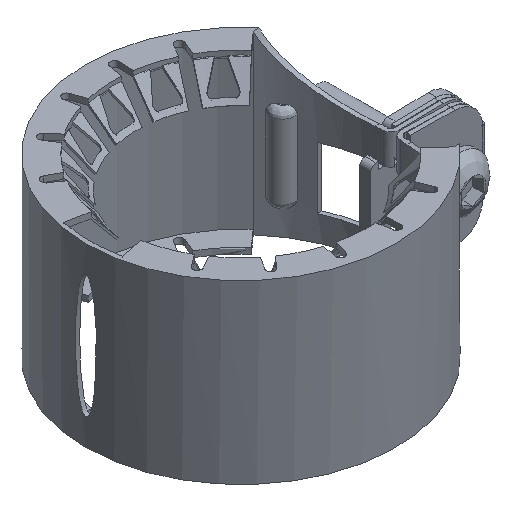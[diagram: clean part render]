
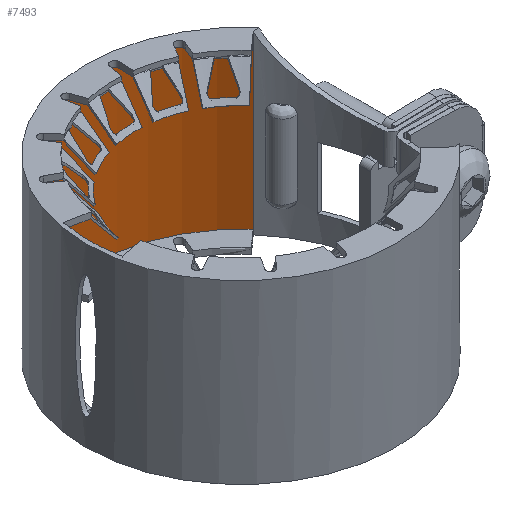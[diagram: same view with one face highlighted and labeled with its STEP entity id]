
A CAD part, isometric view. The second image highlights one B-rep face of the part: STEP entity #7493.
In plain terms, the highlighted cylindrical face has radius 27.9 mm (diameter 55.8 mm), a partial arc.
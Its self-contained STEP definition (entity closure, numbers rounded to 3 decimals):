
#983=LINE('',#13855,#1563);
#984=LINE('',#13856,#1564);
#1563=VECTOR('',#10043,30.8);
#1564=VECTOR('',#10044,30.8);
#1636=CIRCLE('',#7627,27.9);
#1858=CIRCLE('',#8130,27.9);
#1991=CYLINDRICAL_SURFACE('',#8159,27.9);
#2335=FACE_OUTER_BOUND('',#2730,.T.);
#2730=EDGE_LOOP('',(#6639,#6640,#6641,#6642));
#2969=VERTEX_POINT('',#11118);
#2970=VERTEX_POINT('',#11120);
#3515=VERTEX_POINT('',#13784);
#3516=VERTEX_POINT('',#13786);
#3722=EDGE_CURVE('',#2970,#2969,#1636,.T.);
#4566=EDGE_CURVE('',#3515,#3516,#1858,.T.);
#4594=EDGE_CURVE('',#2970,#3515,#983,.T.);
#4595=EDGE_CURVE('',#3516,#2969,#984,.T.);
#6639=ORIENTED_EDGE('',*,*,#4594,.F.);
#6640=ORIENTED_EDGE('',*,*,#3722,.T.);
#6641=ORIENTED_EDGE('',*,*,#4595,.F.);
#6642=ORIENTED_EDGE('',*,*,#4566,.F.);
#7493=ADVANCED_FACE('',(#2335),#1991,.F.);
#7627=AXIS2_PLACEMENT_3D('',#11121,#8512,#8513);
#8130=AXIS2_PLACEMENT_3D('',#13787,#9970,#9971);
#8159=AXIS2_PLACEMENT_3D('',#13854,#10041,#10042);
#8512=DIRECTION('center_axis',(0.,0.,
-1.));
#8513=DIRECTION('ref_axis',(-0.981,0.195,0.));
#9970=DIRECTION('center_axis',(0.,0.,
-1.));
#9971=DIRECTION('ref_axis',(-0.981,0.195,0.));
#10041=DIRECTION('center_axis',(0.,0.,
-1.));
#10042=DIRECTION('ref_axis',(-0.981,0.195,0.));
#10043=DIRECTION('',(0.,0.,1.));
#10044=DIRECTION('',(0.,0.,-1.));
#11118=CARTESIAN_POINT('',(20.84,18.55,-15.4));
#11120=CARTESIAN_POINT('',(-27.364,5.441,-15.4));
#11121=CARTESIAN_POINT('Origin',(0.,0.,
-15.4));
#13784=CARTESIAN_POINT('',(-27.364,5.441,15.4));
#13786=CARTESIAN_POINT('',(20.84,18.55,15.4));
#13787=CARTESIAN_POINT('Origin',(0.,0.,
15.4));
#13854=CARTESIAN_POINT('Origin',(0.,0.,
0.));
#13855=CARTESIAN_POINT('',(-27.364,5.441,-15.4));
#13856=CARTESIAN_POINT('',(20.84,18.55,-15.4));
